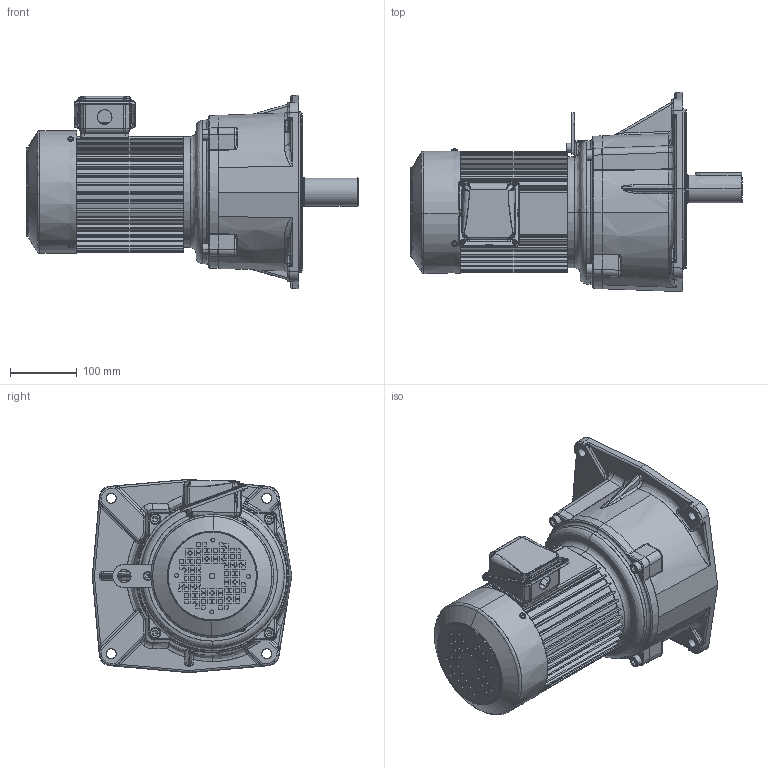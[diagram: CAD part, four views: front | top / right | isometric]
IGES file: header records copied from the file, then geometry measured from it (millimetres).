
Start section: SolidWorks IGES file using analytic representation for surfaces
Global section: file name: \\100.100.100.8\1_共有作業フォルダ\1-5_３Ｄデータ\solidworks\personal-folder\H.Nagayama\SGP1外形075~370\P1(3D)_075~370\igs\TMF2-15-(30~80).IGS; native system: SolidWorks 2018; preprocessor: SolidWorks 2018; author: sigma-giken; date: 200806.152628; units: millimetre
Bounding box: 498 x 299 x 290 mm (x, y, z)
Surface area: 820060.5 mm2 (no closed solid volume)
Topology: 0 solids, 0 shells, 2429 faces, 26365 edges, 26290 vertices
Faces by surface type: bspline 1276, revolution 1153
